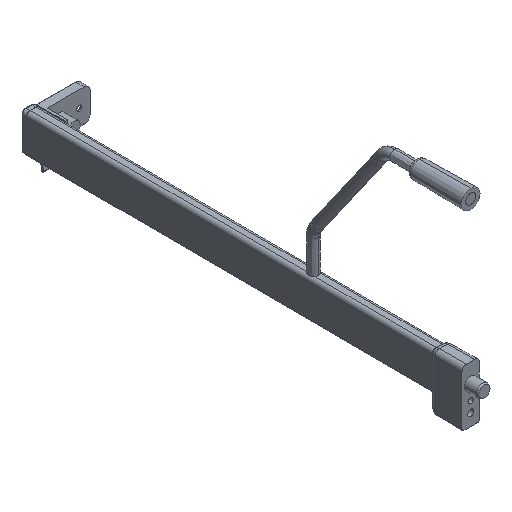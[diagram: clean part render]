
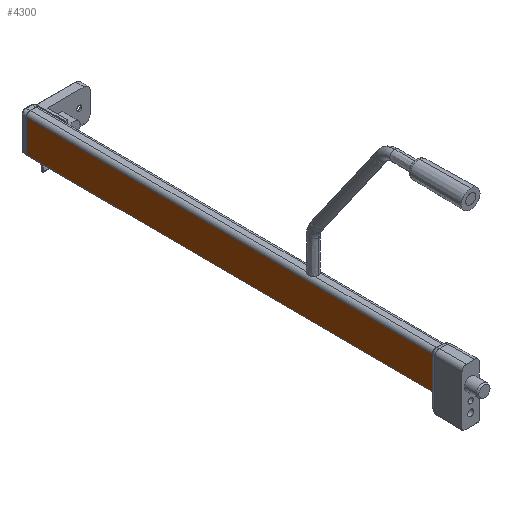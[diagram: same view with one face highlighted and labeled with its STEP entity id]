
A CAD part, isometric view. The second image highlights one B-rep face of the part: STEP entity #4300.
In plain terms, the highlighted planar face has unit normal (-1, 0, 0).
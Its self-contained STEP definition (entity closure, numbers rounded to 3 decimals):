
#1359 = AXIS2_PLACEMENT_3D ( 'NONE', #4707, #4708, #4709 ) ;
#1539 = VERTEX_POINT ( 'NONE', #4456 ) ;
#1551 = VERTEX_POINT ( 'NONE', #4468 ) ;
#1566 = VERTEX_POINT ( 'NONE', #4483 ) ;
#1718 = VERTEX_POINT ( 'NONE', #4035 ) ;
#2831 = CARTESIAN_POINT ( 'NONE',  ( -5.25, 384.257, -13.624 ) ) ;
#2832 = DIRECTION ( 'NONE',  ( 0., -1., -0.005 ) ) ;
#2861 = CARTESIAN_POINT ( 'NONE',  ( -5.25, 384.122, 12.376 ) ) ;
#2862 = DIRECTION ( 'NONE',  ( 0., -1., -0.005 ) ) ;
#2869 = CARTESIAN_POINT ( 'NONE',  ( -5.25, 350.4, -13.624 ) ) ;
#2870 = DIRECTION ( 'NONE',  ( 0., 0., -1. ) ) ;
#2871 = CARTESIAN_POINT ( 'NONE',  ( -5.25, 25., 15. ) ) ;
#2872 = DIRECTION ( 'NONE',  ( 0., 0., -1. ) ) ;
#3275 = FACE_OUTER_BOUND ( 'NONE', #4224, .T. ) ;
#3504 = LINE ( 'NONE', #2831, #3505 ) ;
#3505 = VECTOR ( 'NONE', #2832, 1000. ) ;
#3522 = LINE ( 'NONE', #2861, #3523 ) ;
#3523 = VECTOR ( 'NONE', #2862, 1000. ) ;
#3526 = LINE ( 'NONE', #2869, #3527 ) ;
#3527 = VECTOR ( 'NONE', #2870, 1000. ) ;
#3528 = LINE ( 'NONE', #2871, #3529 ) ;
#3529 = VECTOR ( 'NONE', #2872, 1000. ) ;
#4035 = CARTESIAN_POINT ( 'NONE',  ( -5.25, 350.4, 12.2 ) ) ;
#4224 = EDGE_LOOP ( 'NONE', ( #5057, #5058, #5059, #5060 ) ) ;
#4300 = ADVANCED_FACE ( 'NONE', ( #3275 ), #4706, .F. ) ;
#4456 = CARTESIAN_POINT ( 'NONE',  ( -5.25, 25., 10.5 ) ) ;
#4468 = CARTESIAN_POINT ( 'NONE',  ( -5.25, 350.4, -13.801 ) ) ;
#4483 = CARTESIAN_POINT ( 'NONE',  ( -5.25, 25., -15.5 ) ) ;
#4539 = EDGE_CURVE ( 'NONE', #1551, #1566, #3504, .T. ) ;
#4551 = EDGE_CURVE ( 'NONE', #1718, #1539, #3522, .T. ) ;
#4554 = EDGE_CURVE ( 'NONE', #1718, #1551, #3526, .T. ) ;
#4555 = EDGE_CURVE ( 'NONE', #1539, #1566, #3528, .T. ) ;
#4706 = PLANE ( 'NONE',  #1359 ) ;
#4707 = CARTESIAN_POINT ( 'NONE',  ( -5.25, 384.257, -13.624 ) ) ;
#4708 = DIRECTION ( 'NONE',  ( 1., 0., 0. ) ) ;
#4709 = DIRECTION ( 'NONE',  ( 0., 0., -1. ) ) ;
#5057 = ORIENTED_EDGE ( 'NONE', *, *, #4554, .T. ) ;
#5058 = ORIENTED_EDGE ( 'NONE', *, *, #4539, .T. ) ;
#5059 = ORIENTED_EDGE ( 'NONE', *, *, #4555, .F. ) ;
#5060 = ORIENTED_EDGE ( 'NONE', *, *, #4551, .F. ) ;
